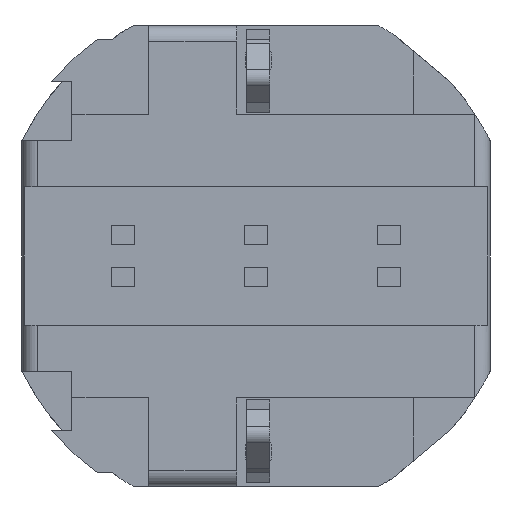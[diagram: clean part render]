
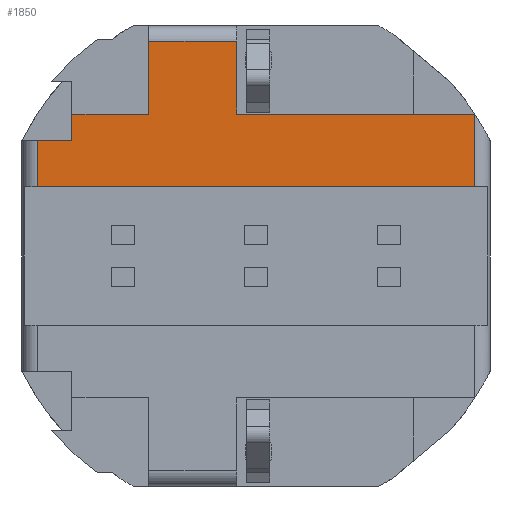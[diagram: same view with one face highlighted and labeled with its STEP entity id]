
A CAD part, front view. The second image highlights one B-rep face of the part: STEP entity #1850.
In plain terms, the highlighted planar face has unit normal (0, -1, 0).
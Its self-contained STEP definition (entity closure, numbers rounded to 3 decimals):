
#554 = LINE ( 'NONE', #555, #1032 ) ;
#555 = CARTESIAN_POINT ( 'NONE',  ( -2.4, 0., 0.9 ) ) ;
#556 = DIRECTION ( 'NONE',  ( 0., 0., 1. ) ) ;
#582 = LINE ( 'NONE', #583, #1044 ) ;
#583 = CARTESIAN_POINT ( 'NONE',  ( -2.85, 0., 1.5 ) ) ;
#584 = DIRECTION ( 'NONE',  ( 1., 0., 0. ) ) ;
#738 = LINE ( 'NONE', #4224, #1098 ) ;
#1032 = VECTOR ( 'NONE', #556, 1000. ) ;
#1044 = VECTOR ( 'NONE', #584, 1000. ) ;
#1098 = VECTOR ( 'NONE', #4225, 1000. ) ;
#1099 = VECTOR ( 'NONE', #4228, 1000. ) ;
#1153 = VECTOR ( 'NONE', #4353, 1000. ) ;
#1198 = VECTOR ( 'NONE', #4480, 1000. ) ;
#1200 = VECTOR ( 'NONE', #4486, 1000. ) ;
#1201 = VECTOR ( 'NONE', #4489, 1000. ) ;
#1202 = VECTOR ( 'NONE', #4492, 1000. ) ;
#1207 = VECTOR ( 'NONE', #4507, 1000. ) ;
#1850 = ADVANCED_FACE ( 'NONE', ( #3936 ), #3718, .F. ) ;
#3718 = PLANE ( 'NONE',  #3939 ) ;
#3719 = CARTESIAN_POINT ( 'NONE',  ( -2.85, 0., 0.9 ) ) ;
#3720 = DIRECTION ( 'NONE',  ( 0., 1., 0. ) ) ;
#3721 = DIRECTION ( 'NONE',  ( 0., 0., 1. ) ) ;
#3936 = FACE_OUTER_BOUND ( 'NONE', #7044, .T. ) ;
#3939 = AXIS2_PLACEMENT_3D ( 'NONE', #3719, #3720, #3721 ) ;
#4224 = CARTESIAN_POINT ( 'NONE',  ( 2.853, 0., 1.85 ) ) ;
#4225 = DIRECTION ( 'NONE',  ( -1., 0., 0. ) ) ;
#4226 = LINE ( 'NONE', #4227, #1099 ) ;
#4227 = CARTESIAN_POINT ( 'NONE',  ( 2.85, 0., 0.9 ) ) ;
#4228 = DIRECTION ( 'NONE',  ( 0., 0., -1. ) ) ;
#4351 = LINE ( 'NONE', #4352, #1153 ) ;
#4352 = CARTESIAN_POINT ( 'NONE',  ( -2.85, 0., 0.9 ) ) ;
#4353 = DIRECTION ( 'NONE',  ( 0., 0., 1. ) ) ;
#4478 = LINE ( 'NONE', #4479, #1198 ) ;
#4479 = CARTESIAN_POINT ( 'NONE',  ( -3.059, 0., 0.9 ) ) ;
#4480 = DIRECTION ( 'NONE',  ( 1., 0., 0. ) ) ;
#4484 = LINE ( 'NONE', #4485, #1200 ) ;
#4485 = CARTESIAN_POINT ( 'NONE',  ( -2.85, 0., 2.8 ) ) ;
#4486 = DIRECTION ( 'NONE',  ( 1., 0., 0. ) ) ;
#4487 = LINE ( 'NONE', #4488, #1201 ) ;
#4488 = CARTESIAN_POINT ( 'NONE',  ( -0.253, 0., 0.9 ) ) ;
#4489 = DIRECTION ( 'NONE',  ( 0., 0., -1. ) ) ;
#4490 = LINE ( 'NONE', #4491, #1202 ) ;
#4491 = CARTESIAN_POINT ( 'NONE',  ( -1.4, 0., 0.9 ) ) ;
#4492 = DIRECTION ( 'NONE',  ( 0., 0., 1. ) ) ;
#4505 = LINE ( 'NONE', #4506, #1207 ) ;
#4506 = CARTESIAN_POINT ( 'NONE',  ( -1.4, 0., 1.85 ) ) ;
#4507 = DIRECTION ( 'NONE',  ( -1., 0., 0. ) ) ;
#5245 = CARTESIAN_POINT ( 'NONE',  ( -0.253, 0., 2.8 ) ) ;
#5246 = CARTESIAN_POINT ( 'NONE',  ( -0.253, 0., 1.85 ) ) ;
#5247 = CARTESIAN_POINT ( 'NONE',  ( -1.4, 0., 2.8 ) ) ;
#5248 = CARTESIAN_POINT ( 'NONE',  ( -1.4, 0., 1.85 ) ) ;
#5249 = CARTESIAN_POINT ( 'NONE',  ( -2.4, 0., 1.85 ) ) ;
#5250 = CARTESIAN_POINT ( 'NONE',  ( -2.4, 0., 1.5 ) ) ;
#5251 = CARTESIAN_POINT ( 'NONE',  ( -2.85, 0., 1.5 ) ) ;
#5252 = CARTESIAN_POINT ( 'NONE',  ( -2.85, 0., 0.9 ) ) ;
#5253 = CARTESIAN_POINT ( 'NONE',  ( 2.85, 0., 0.9 ) ) ;
#5254 = CARTESIAN_POINT ( 'NONE',  ( 2.85, 0., 1.85 ) ) ;
#5389 = EDGE_CURVE ( 'NONE', #6590, #6589, #554, .T. ) ;
#5398 = EDGE_CURVE ( 'NONE', #6591, #6590, #582, .T. ) ;
#5447 = EDGE_CURVE ( 'NONE', #6594, #6586, #738, .T. ) ;
#5448 = EDGE_CURVE ( 'NONE', #6594, #6593, #4226, .T. ) ;
#5488 = EDGE_CURVE ( 'NONE', #6592, #6591, #4351, .T. ) ;
#5529 = EDGE_CURVE ( 'NONE', #6592, #6593, #4478, .T. ) ;
#5531 = EDGE_CURVE ( 'NONE', #6587, #6585, #4484, .T. ) ;
#5532 = EDGE_CURVE ( 'NONE', #6585, #6586, #4487, .T. ) ;
#5533 = EDGE_CURVE ( 'NONE', #6588, #6587, #4490, .T. ) ;
#5538 = EDGE_CURVE ( 'NONE', #6588, #6589, #4505, .T. ) ;
#6287 = ORIENTED_EDGE ( 'NONE', *, *, #5532, .F. ) ;
#6288 = ORIENTED_EDGE ( 'NONE', *, *, #5533, .F. ) ;
#6289 = ORIENTED_EDGE ( 'NONE', *, *, #5531, .F. ) ;
#6290 = ORIENTED_EDGE ( 'NONE', *, *, #5538, .T. ) ;
#6291 = ORIENTED_EDGE ( 'NONE', *, *, #5389, .F. ) ;
#6292 = ORIENTED_EDGE ( 'NONE', *, *, #5398, .F. ) ;
#6293 = ORIENTED_EDGE ( 'NONE', *, *, #5488, .F. ) ;
#6294 = ORIENTED_EDGE ( 'NONE', *, *, #5529, .T. ) ;
#6295 = ORIENTED_EDGE ( 'NONE', *, *, #5448, .F. ) ;
#6296 = ORIENTED_EDGE ( 'NONE', *, *, #5447, .T. ) ;
#6585 = VERTEX_POINT ( 'NONE', #5245 ) ;
#6586 = VERTEX_POINT ( 'NONE', #5246 ) ;
#6587 = VERTEX_POINT ( 'NONE', #5247 ) ;
#6588 = VERTEX_POINT ( 'NONE', #5248 ) ;
#6589 = VERTEX_POINT ( 'NONE', #5249 ) ;
#6590 = VERTEX_POINT ( 'NONE', #5250 ) ;
#6591 = VERTEX_POINT ( 'NONE', #5251 ) ;
#6592 = VERTEX_POINT ( 'NONE', #5252 ) ;
#6593 = VERTEX_POINT ( 'NONE', #5253 ) ;
#6594 = VERTEX_POINT ( 'NONE', #5254 ) ;
#7044 = EDGE_LOOP ( 'NONE', ( #6287, #6289, #6288, #6290, #6291, #6292, #6293, #6294, #6295, #6296 ) ) ;
